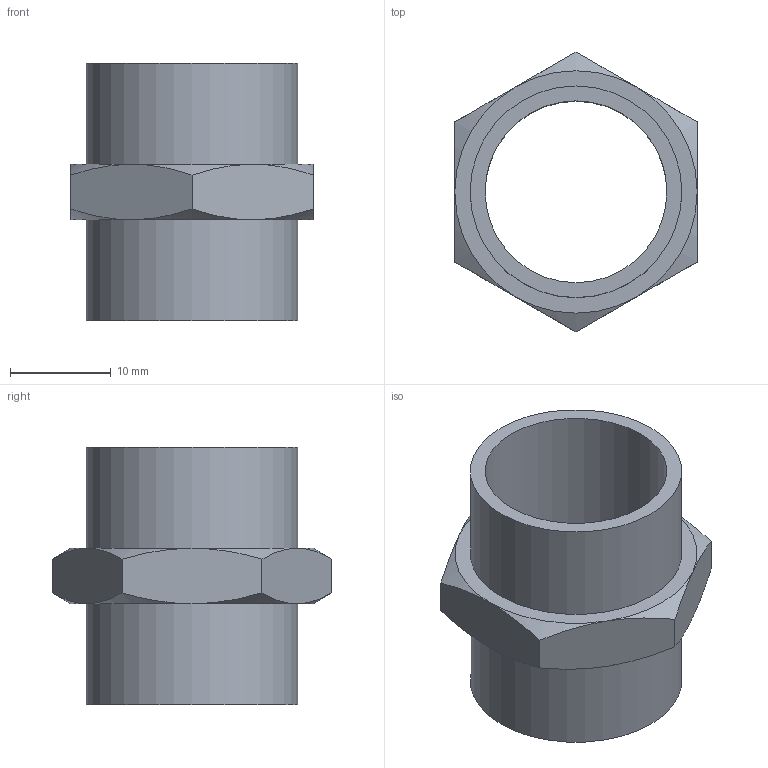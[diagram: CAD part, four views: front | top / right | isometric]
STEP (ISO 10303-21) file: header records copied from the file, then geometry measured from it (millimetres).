
FILE_DESCRIPTION(/* description */ (''),/* implementation_level */ '2;1');
FILE_NAME(/* name */ 'C:\PNX_VAULTFOLDER\Area Tecnica\Disegni\VARIE-3D\Componenti\raccordi\101####\1011212.stp',/* time_stamp */ '2019-09-13T10:22:40+02:00',/* author */ ('maniean1'),/* organization */ ('Pneumax S.p.A.'),/* preprocessor_version */ 'ST-DEVELOPER v17',/* originating_system */ 'Autodesk Inventor 2019',/* authorisation */ '');
FILE_SCHEMA (('AUTOMOTIVE_DESIGN { 1 0 10303 214 3 1 1 }'));
Length unit declared in the file: millimetre
Products named in the file (1): 1011212
Bounding box: 24 x 27.71 x 25.5 mm (x, y, z)
Volume: 3122.2 mm3; surface area: 3657.9 mm2
Topology: 1 solids, 1 shells, 25 faces, 56 edges, 35 vertices
Faces by surface type: cone 12, plane 10, cylinder 3
Full cylindrical faces by diameter (mm): 18 x1, 20.955 x2
Entity records: 741 total; most frequent: CARTESIAN_POINT 165, ORIENTED_EDGE 112, DIRECTION 107, EDGE_CURVE 56, AXIS2_PLACEMENT_3D 49, VERTEX_POINT 35, EDGE_LOOP 29, STYLED_ITEM 26
